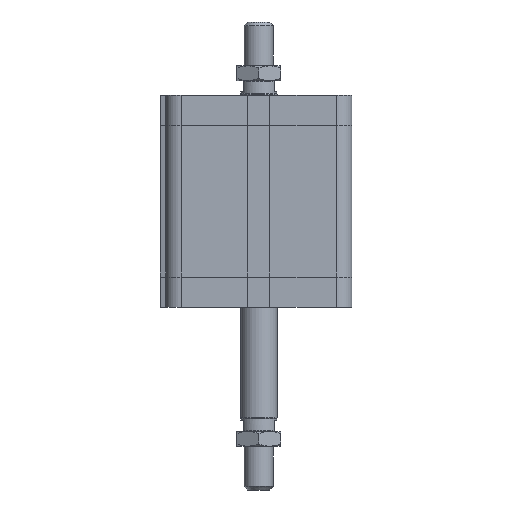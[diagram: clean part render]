
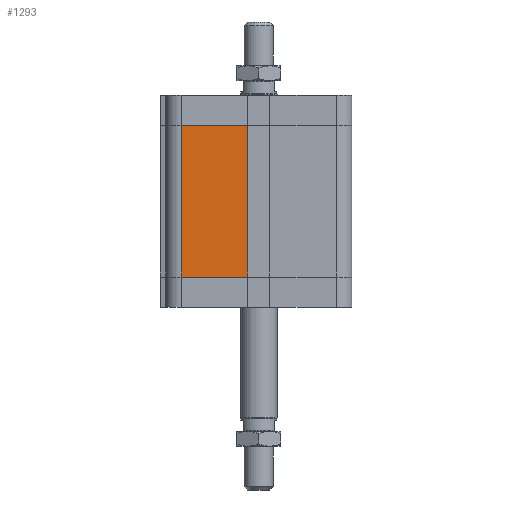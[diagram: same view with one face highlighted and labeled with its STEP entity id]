
A CAD part, left-side view. The second image highlights one B-rep face of the part: STEP entity #1293.
In plain terms, the highlighted planar face has unit normal (-1, 0, 0).
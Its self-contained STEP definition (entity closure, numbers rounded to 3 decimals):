
#1204=CARTESIAN_POINT('',(-51.0,42.5,16.5));
#1205=VERTEX_POINT('',#1204);
#1213=CARTESIAN_POINT('',(-51.0,42.5,99.5));
#1214=VERTEX_POINT('',#1213);
#1215=CARTESIAN_POINT('',(-51.0,42.5,16.5));
#1216=DIRECTION('',(0.0,0.0,1.0));
#1217=VECTOR('',#1216,83.0);
#1218=LINE('',#1215,#1217);
#1219=EDGE_CURVE('',#1205,#1214,#1218,.T.);
#1263=CARTESIAN_POINT('',(-51.,6.,0.0));
#1264=DIRECTION('',(-1.0,0.0,0.0));
#1265=DIRECTION('',(0.0,0.0,1.0));
#1266=AXIS2_PLACEMENT_3D('',#1263,#1264,#1265);
#1267=PLANE('',#1266);
#1268=CARTESIAN_POINT('',(-51.,6.,16.5));
#1269=VERTEX_POINT('',#1268);
#1270=CARTESIAN_POINT('',(-51.0,42.5,16.5));
#1271=DIRECTION('',(0.0,-1.0,0.0));
#1272=VECTOR('',#1271,36.5);
#1273=LINE('',#1270,#1272);
#1274=EDGE_CURVE('',#1205,#1269,#1273,.T.);
#1275=ORIENTED_EDGE('',*,*,#1274,.T.);
#1276=CARTESIAN_POINT('',(-51.,6.,99.5));
#1277=VERTEX_POINT('',#1276);
#1278=CARTESIAN_POINT('',(-51.,6.,16.5));
#1279=DIRECTION('',(0.0,0.0,1.0));
#1280=VECTOR('',#1279,83.0);
#1281=LINE('',#1278,#1280);
#1282=EDGE_CURVE('',#1269,#1277,#1281,.T.);
#1283=ORIENTED_EDGE('',*,*,#1282,.T.);
#1284=CARTESIAN_POINT('',(-51.0,42.5,99.5));
#1285=DIRECTION('',(0.0,-1.0,0.0));
#1286=VECTOR('',#1285,36.5);
#1287=LINE('',#1284,#1286);
#1288=EDGE_CURVE('',#1214,#1277,#1287,.T.);
#1289=ORIENTED_EDGE('',*,*,#1288,.F.);
#1290=ORIENTED_EDGE('',*,*,#1219,.F.);
#1291=EDGE_LOOP('',(#1275,#1283,#1289,#1290));
#1292=FACE_OUTER_BOUND('',#1291,.T.);
#1293=ADVANCED_FACE('',(#1292),#1267,.T.);
